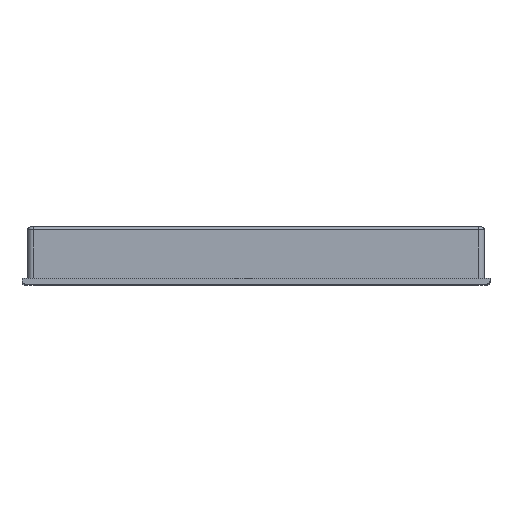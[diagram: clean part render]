
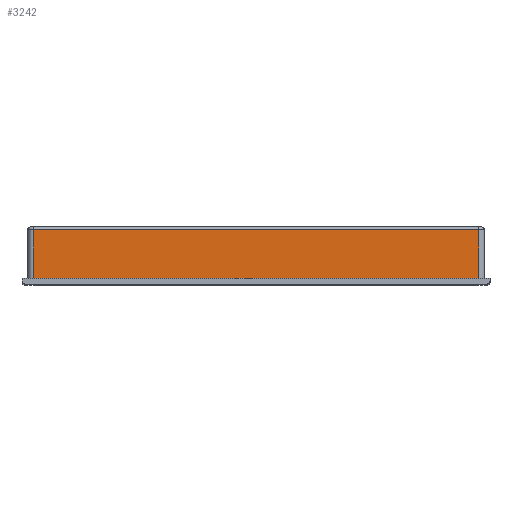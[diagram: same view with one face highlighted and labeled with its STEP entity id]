
A CAD part, top view. The second image highlights one B-rep face of the part: STEP entity #3242.
In plain terms, the highlighted planar face has unit normal (0, 0, 1).
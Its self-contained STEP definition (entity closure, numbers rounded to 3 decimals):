
#97=PLANE('',#3474);
#238=FACE_OUTER_BOUND('',#427,.T.);
#427=EDGE_LOOP('',(#2383,#2384,#2385,#2386));
#701=LINE('',#4858,#1059);
#703=LINE('',#4875,#1061);
#704=LINE('',#4877,#1062);
#705=LINE('',#4878,#1063);
#1059=VECTOR('',#3876,10.);
#1061=VECTOR('',#3886,10.);
#1062=VECTOR('',#3887,10.);
#1063=VECTOR('',#3888,10.);
#1544=VERTEX_POINT('',#4852);
#1545=VERTEX_POINT('',#4856);
#1547=VERTEX_POINT('',#4874);
#1548=VERTEX_POINT('',#4876);
#1871=EDGE_CURVE('',#1545,#1544,#701,.T.);
#1875=EDGE_CURVE('',#1547,#1545,#703,.T.);
#1876=EDGE_CURVE('',#1547,#1548,#704,.T.);
#1877=EDGE_CURVE('',#1544,#1548,#705,.T.);
#2383=ORIENTED_EDGE('',*,*,#1871,.F.);
#2384=ORIENTED_EDGE('',*,*,#1875,.F.);
#2385=ORIENTED_EDGE('',*,*,#1876,.T.);
#2386=ORIENTED_EDGE('',*,*,#1877,.F.);
#3242=ADVANCED_FACE('',(#238),#97,.T.);
#3474=AXIS2_PLACEMENT_3D('',#4873,#3884,#3885);
#3876=DIRECTION('',(1.,0.,0.));
#3884=DIRECTION('center_axis',(0.,0.,1.));
#3885=DIRECTION('ref_axis',(1.,0.,0.));
#3886=DIRECTION('',(0.,1.,0.));
#3887=DIRECTION('',(1.,0.,0.));
#3888=DIRECTION('',(0.,-1.,0.));
#4852=CARTESIAN_POINT('',(158.,19.,200.));
#4856=CARTESIAN_POINT('',(2.,19.,200.));
#4858=CARTESIAN_POINT('',(77.,19.,200.));
#4873=CARTESIAN_POINT('Origin',(0.,0.,200.));
#4874=CARTESIAN_POINT('',(2.,2.,200.));
#4875=CARTESIAN_POINT('',(2.,0.,200.));
#4876=CARTESIAN_POINT('',(158.,2.,200.));
#4877=CARTESIAN_POINT('',(40.,2.,200.));
#4878=CARTESIAN_POINT('',(158.,0.,200.));
